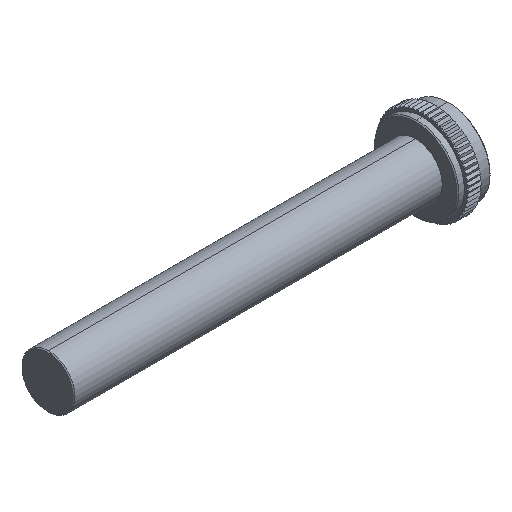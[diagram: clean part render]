
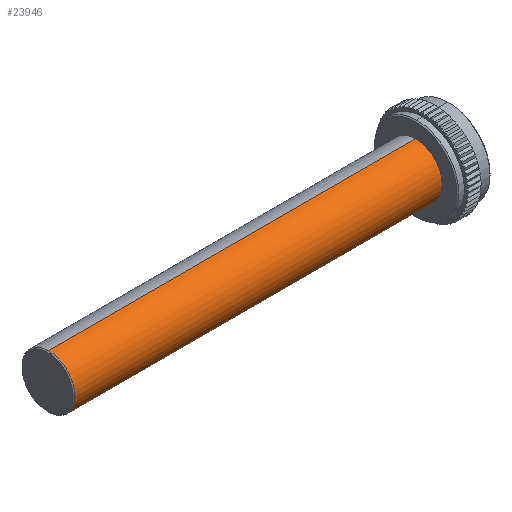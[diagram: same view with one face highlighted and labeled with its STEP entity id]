
A CAD part, isometric view. The second image highlights one B-rep face of the part: STEP entity #23946.
In plain terms, the highlighted face is a revolution surface.
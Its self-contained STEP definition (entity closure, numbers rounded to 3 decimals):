
#23946 = ADVANCED_FACE('',(#23947),#23962,.T.);
#23947 = FACE_BOUND('',#23948,.T.);
#23948 = EDGE_LOOP('',(#23949,#23975,#23990,#24006));
#23949 = ORIENTED_EDGE('',*,*,#23950,.F.);
#23950 = EDGE_CURVE('',#23951,#23953,#23955,.T.);
#23951 = VERTEX_POINT('',#23952);
#23952 = CARTESIAN_POINT('',(0.3,0.,8.));
#23953 = VERTEX_POINT('',#23954);
#23954 = CARTESIAN_POINT('',(0.3,0.,-8.));
#23955 = SURFACE_CURVE('',#23956,(#23961),.PCURVE_S1.);
#23956 = CIRCLE('',#23957,8.);
#23957 = AXIS2_PLACEMENT_3D('',#23958,#23959,#23960);
#23958 = CARTESIAN_POINT('',(0.3,0.,0.));
#23959 = DIRECTION('',(1.,0.,0.));
#23960 = DIRECTION('',(0.,0.,1.));
#23961 = PCURVE('',#23962,#23970);
#23962 = SURFACE_OF_REVOLUTION('',#23963,#23967);
#23963 = LINE('',#23964,#23965);
#23964 = CARTESIAN_POINT('',(111.,0.,8.));
#23965 = VECTOR('',#23966,1.);
#23966 = DIRECTION('',(-1.,0.,0.));
#23967 = AXIS1_PLACEMENT('',#23968,#23969);
#23968 = CARTESIAN_POINT('',(-2.786,0.,0.));
#23969 = DIRECTION('',(1.,0.,0.));
#23970 = DEFINITIONAL_REPRESENTATION('',(#23971),#23974);
#23971 = B_SPLINE_CURVE_WITH_KNOTS('',1,(#23972,#23973),.UNSPECIFIED.,
  .F.,.F.,(2,2),(0.,3.142),.PIECEWISE_BEZIER_KNOTS.);
#23972 = CARTESIAN_POINT('',(0.,110.7));
#23973 = CARTESIAN_POINT('',(3.142,110.7));
#23974 = ( GEOMETRIC_REPRESENTATION_CONTEXT(2) 
PARAMETRIC_REPRESENTATION_CONTEXT() REPRESENTATION_CONTEXT('2D SPACE',''
  ) );
#23975 = ORIENTED_EDGE('',*,*,#23976,.F.);
#23976 = EDGE_CURVE('',#23977,#23951,#23979,.T.);
#23977 = VERTEX_POINT('',#23978);
#23978 = CARTESIAN_POINT('',(111.,0.,8.));
#23979 = SURFACE_CURVE('',#23980,(#23984),.PCURVE_S1.);
#23980 = LINE('',#23981,#23982);
#23981 = CARTESIAN_POINT('',(111.,0.,8.));
#23982 = VECTOR('',#23983,1.);
#23983 = DIRECTION('',(-1.,0.,0.));
#23984 = PCURVE('',#23962,#23985);
#23985 = DEFINITIONAL_REPRESENTATION('',(#23986),#23989);
#23986 = B_SPLINE_CURVE_WITH_KNOTS('',1,(#23987,#23988),.UNSPECIFIED.,
  .F.,.F.,(2,2),(0.,110.7),.PIECEWISE_BEZIER_KNOTS.);
#23987 = CARTESIAN_POINT('',(0.,0.));
#23988 = CARTESIAN_POINT('',(0.,110.7));
#23989 = ( GEOMETRIC_REPRESENTATION_CONTEXT(2) 
PARAMETRIC_REPRESENTATION_CONTEXT() REPRESENTATION_CONTEXT('2D SPACE',''
  ) );
#23990 = ORIENTED_EDGE('',*,*,#23991,.F.);
#23991 = EDGE_CURVE('',#23992,#23977,#23994,.T.);
#23992 = VERTEX_POINT('',#23993);
#23993 = CARTESIAN_POINT('',(111.,0.,-8.));
#23994 = SURFACE_CURVE('',#23995,(#24000),.PCURVE_S1.);
#23995 = CIRCLE('',#23996,8.);
#23996 = AXIS2_PLACEMENT_3D('',#23997,#23998,#23999);
#23997 = CARTESIAN_POINT('',(111.,0.,0.));
#23998 = DIRECTION('',(-1.,0.,0.));
#23999 = DIRECTION('',(0.,0.,-1.));
#24000 = PCURVE('',#23962,#24001);
#24001 = DEFINITIONAL_REPRESENTATION('',(#24002),#24005);
#24002 = B_SPLINE_CURVE_WITH_KNOTS('',1,(#24003,#24004),.UNSPECIFIED.,
  .F.,.F.,(2,2),(0.,3.142),
  .PIECEWISE_BEZIER_KNOTS.);
#24003 = CARTESIAN_POINT('',(3.142,0.));
#24004 = CARTESIAN_POINT('',(0.,0.));
#24005 = ( GEOMETRIC_REPRESENTATION_CONTEXT(2) 
PARAMETRIC_REPRESENTATION_CONTEXT() REPRESENTATION_CONTEXT('2D SPACE',''
  ) );
#24006 = ORIENTED_EDGE('',*,*,#24007,.F.);
#24007 = EDGE_CURVE('',#23953,#23992,#24008,.T.);
#24008 = SURFACE_CURVE('',#24009,(#24013),.PCURVE_S1.);
#24009 = LINE('',#24010,#24011);
#24010 = CARTESIAN_POINT('',(0.3,0.,-8.));
#24011 = VECTOR('',#24012,1.);
#24012 = DIRECTION('',(1.,0.,0.));
#24013 = PCURVE('',#23962,#24014);
#24014 = DEFINITIONAL_REPRESENTATION('',(#24015),#24018);
#24015 = B_SPLINE_CURVE_WITH_KNOTS('',1,(#24016,#24017),.UNSPECIFIED.,
  .F.,.F.,(2,2),(0.,110.7),.PIECEWISE_BEZIER_KNOTS.);
#24016 = CARTESIAN_POINT('',(3.142,110.7));
#24017 = CARTESIAN_POINT('',(3.142,0.));
#24018 = ( GEOMETRIC_REPRESENTATION_CONTEXT(2) 
PARAMETRIC_REPRESENTATION_CONTEXT() REPRESENTATION_CONTEXT('2D SPACE',''
  ) );
